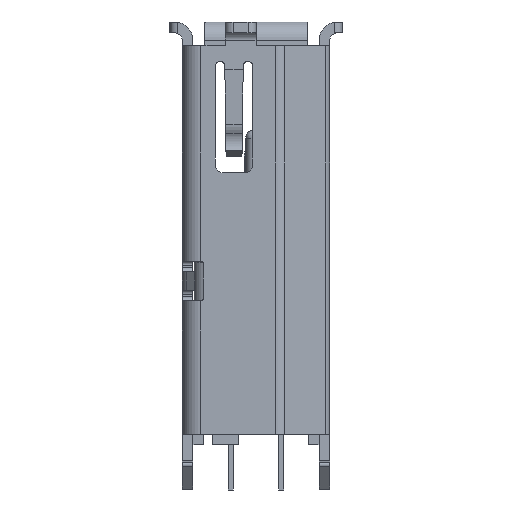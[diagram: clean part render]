
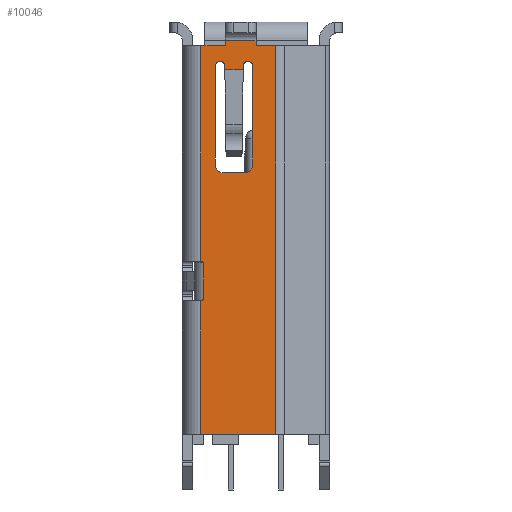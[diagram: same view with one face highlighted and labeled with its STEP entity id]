
A CAD part, left-side view. The second image highlights one B-rep face of the part: STEP entity #10046.
In plain terms, the highlighted planar face has unit normal (-1, 0, 0).
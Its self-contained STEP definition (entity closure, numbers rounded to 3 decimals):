
#229=DIRECTION('',(0.,-1.,0.));
#230=VECTOR('',#229,2.82);
#231=CARTESIAN_POINT('',(-8.45,2.08,-15.57));
#232=LINE('',#231,#230);
#1137=DIRECTION('',(0.,1.,0.));
#1138=VECTOR('',#1137,0.92);
#1139=CARTESIAN_POINT('',(-8.45,1.16,-0.9));
#1140=LINE('',#1139,#1138);
#1377=CARTESIAN_POINT('',(-8.45,2.08,-9.13));
#1378=DIRECTION('',(1.,0.,0.));
#1379=DIRECTION('',(0.,0.,1.));
#1380=AXIS2_PLACEMENT_3D('',#1377,#1378,#1379);
#1467=CARTESIAN_POINT('',(-8.45,2.08,-10.43));
#1468=DIRECTION('',(1.,0.,0.));
#1469=DIRECTION('',(0.,-1.,0.));
#1470=AXIS2_PLACEMENT_3D('',#1467,#1468,#1469);
#1477=DIRECTION('',(0.,0.,1.));
#1478=VECTOR('',#1477,1.3);
#1479=CARTESIAN_POINT('',(-8.45,1.98,-10.43));
#1480=LINE('',#1479,#1478);
#1481=DIRECTION('',(0.,0.,-1.));
#1482=VECTOR('',#1481,8.13);
#1483=CARTESIAN_POINT('',(-8.45,2.08,-0.9));
#1484=LINE('',#1483,#1482);
#1485=DIRECTION('',(0.,0.,-1.));
#1486=VECTOR('',#1485,0.2);
#1487=CARTESIAN_POINT('',(-8.45,1.16,-0.7));
#1488=LINE('',#1487,#1486);
#1489=DIRECTION('',(0.,0.,-1.));
#1490=VECTOR('',#1489,0.2);
#1491=CARTESIAN_POINT('',(-8.45,0.,-0.7));
#1492=LINE('',#1491,#1490);
#1493=DIRECTION('',(0.,1.,0.));
#1494=VECTOR('',#1493,0.74);
#1495=CARTESIAN_POINT('',(-8.45,-0.74,-0.9));
#1496=LINE('',#1495,#1494);
#1497=DIRECTION('',(0.,0.,-1.));
#1498=VECTOR('',#1497,5.04);
#1499=CARTESIAN_POINT('',(-8.45,2.08,-10.53));
#1500=LINE('',#1499,#1498);
#1501=DIRECTION('',(0.,-1.,0.));
#1502=VECTOR('',#1501,0.052);
#1503=CARTESIAN_POINT('',(-8.45,0.332,-1.5));
#1504=LINE('',#1503,#1502);
#1505=DIRECTION('',(0.,-0.014,1.));
#1506=VECTOR('',#1505,0.152);
#1507=CARTESIAN_POINT('',(-8.45,0.484,-1.8));
#1508=LINE('',#1507,#1506);
#1509=DIRECTION('',(0.,1.,0.));
#1510=VECTOR('',#1509,0.692);
#1511=CARTESIAN_POINT('',(-8.45,0.484,-1.8));
#1512=LINE('',#1511,#1510);
#1513=DIRECTION('',(0.,-0.014,-1.));
#1514=VECTOR('',#1513,0.152);
#1515=CARTESIAN_POINT('',(-8.45,1.178,-1.648));
#1516=LINE('',#1515,#1514);
#1517=DIRECTION('',(0.,-1.,0.));
#1518=VECTOR('',#1517,0.052);
#1519=CARTESIAN_POINT('',(-8.45,1.38,-1.5));
#1520=LINE('',#1519,#1518);
#1521=CARTESIAN_POINT('',(-8.45,1.23,-5.4));
#1522=DIRECTION('',(1.,0.,0.));
#1523=DIRECTION('',(0.,0.,-1.));
#1524=AXIS2_PLACEMENT_3D('',#1521,#1522,#1523);
#1526=DIRECTION('',(0.,1.,0.));
#1527=VECTOR('',#1526,0.8);
#1528=CARTESIAN_POINT('',(-8.45,0.43,-5.7));
#1529=LINE('',#1528,#1527);
#1530=CARTESIAN_POINT('',(-8.45,0.43,-5.4));
#1531=DIRECTION('',(1.,0.,0.));
#1532=DIRECTION('',(0.,-1.,0.));
#1533=AXIS2_PLACEMENT_3D('',#1530,#1531,#1532);
#3983=DIRECTION('',(0.,0.,1.));
#3984=VECTOR('',#3983,3.75);
#3985=CARTESIAN_POINT('',(-8.45,1.53,-5.4));
#3986=LINE('',#3985,#3984);
#4027=DIRECTION('',(0.,0.,-1.));
#4028=VECTOR('',#4027,3.75);
#4029=CARTESIAN_POINT('',(-8.45,0.13,-1.65));
#4030=LINE('',#4029,#4028);
#4209=CARTESIAN_POINT('',(-8.45,1.328,-1.65));
#4210=DIRECTION('',(1.,0.,0.));
#4211=DIRECTION('',(0.,0.,1.));
#4212=AXIS2_PLACEMENT_3D('',#4209,#4210,#4211);
#4336=CARTESIAN_POINT('',(-8.45,0.332,-1.65));
#4337=DIRECTION('',(1.,0.,0.));
#4338=DIRECTION('',(0.,1.,0.014));
#4339=AXIS2_PLACEMENT_3D('',#4336,#4337,#4338);
#4346=CARTESIAN_POINT('',(-8.45,0.28,-1.65));
#4347=DIRECTION('',(1.,0.,0.));
#4348=DIRECTION('',(0.,0.,1.));
#4349=AXIS2_PLACEMENT_3D('',#4346,#4347,#4348);
#4356=CARTESIAN_POINT('',(-8.45,1.38,-1.65));
#4357=DIRECTION('',(1.,0.,0.));
#4358=DIRECTION('',(0.,1.,0.));
#4359=AXIS2_PLACEMENT_3D('',#4356,#4357,#4358);
#6172=DIRECTION('',(0.,1.,0.));
#6173=VECTOR('',#6172,1.16);
#6174=CARTESIAN_POINT('',(-8.45,0.,-0.7));
#6175=LINE('',#6174,#6173);
#6186=DIRECTION('',(0.,0.,-1.));
#6187=VECTOR('',#6186,14.67);
#6188=CARTESIAN_POINT('',(-8.45,-0.74,-0.9));
#6189=LINE('',#6188,#6187);
#6871=CARTESIAN_POINT('',(-8.45,2.08,-15.57));
#6873=VERTEX_POINT('',#6871);
#6874=CARTESIAN_POINT('',(-8.45,-0.74,-15.57));
#6875=VERTEX_POINT('',#6874);
#6907=CARTESIAN_POINT('',(-8.45,2.08,-0.9));
#6909=VERTEX_POINT('',#6907);
#6938=CARTESIAN_POINT('',(-8.45,-0.74,-0.9));
#6939=CARTESIAN_POINT('',(-8.45,0.,-0.9));
#6940=VERTEX_POINT('',#6938);
#6941=VERTEX_POINT('',#6939);
#6942=CARTESIAN_POINT('',(-8.45,1.16,-0.7));
#6943=CARTESIAN_POINT('',(-8.45,1.16,-0.9));
#6944=VERTEX_POINT('',#6942);
#6945=VERTEX_POINT('',#6943);
#6946=CARTESIAN_POINT('',(-8.45,0.,-0.7));
#6947=VERTEX_POINT('',#6946);
#7090=CARTESIAN_POINT('',(-8.45,0.13,-5.4));
#7091=CARTESIAN_POINT('',(-8.45,0.43,-5.7));
#7092=VERTEX_POINT('',#7090);
#7093=VERTEX_POINT('',#7091);
#7094=CARTESIAN_POINT('',(-8.45,1.23,-5.7));
#7095=VERTEX_POINT('',#7094);
#7096=CARTESIAN_POINT('',(-8.45,1.53,-5.4));
#7097=VERTEX_POINT('',#7096);
#7290=CARTESIAN_POINT('',(-8.45,1.176,-1.8));
#7291=VERTEX_POINT('',#7290);
#7292=CARTESIAN_POINT('',(-8.45,0.484,-1.8));
#7293=VERTEX_POINT('',#7292);
#7930=CARTESIAN_POINT('',(-8.45,2.08,-9.03));
#7931=CARTESIAN_POINT('',(-8.45,1.98,-9.13));
#7932=VERTEX_POINT('',#7930);
#7933=VERTEX_POINT('',#7931);
#7934=CARTESIAN_POINT('',(-8.45,1.98,-10.43));
#7935=CARTESIAN_POINT('',(-8.45,2.08,-10.53));
#7936=VERTEX_POINT('',#7934);
#7937=VERTEX_POINT('',#7935);
#8042=CARTESIAN_POINT('',(-8.45,0.28,-1.5));
#8043=CARTESIAN_POINT('',(-8.45,0.13,-1.65));
#8044=VERTEX_POINT('',#8042);
#8045=VERTEX_POINT('',#8043);
#8050=CARTESIAN_POINT('',(-8.45,1.328,-1.5));
#8051=CARTESIAN_POINT('',(-8.45,1.178,-1.648));
#8052=VERTEX_POINT('',#8050);
#8053=VERTEX_POINT('',#8051);
#8058=CARTESIAN_POINT('',(-8.45,0.482,-1.648));
#8059=CARTESIAN_POINT('',(-8.45,0.332,-1.5));
#8060=VERTEX_POINT('',#8058);
#8061=VERTEX_POINT('',#8059);
#8066=CARTESIAN_POINT('',(-8.45,1.53,-1.65));
#8067=CARTESIAN_POINT('',(-8.45,1.38,-1.5));
#8068=VERTEX_POINT('',#8066);
#8069=VERTEX_POINT('',#8067);
#9991=CARTESIAN_POINT('',(-8.45,2.08,0.));
#9992=DIRECTION('',(-1.,0.,0.));
#9993=DIRECTION('',(0.,-1.,0.));
#9994=AXIS2_PLACEMENT_3D('',#9991,#9992,#9993);
#9995=PLANE('',#9994);
#9996=ORIENTED_EDGE('',*,*,#9835,.T.);
#9997=ORIENTED_EDGE('',*,*,#9868,.F.);
#9999=ORIENTED_EDGE('',*,*,#9998,.F.);
#10000=ORIENTED_EDGE('',*,*,#9596,.F.);
#10002=ORIENTED_EDGE('',*,*,#10001,.F.);
#10004=ORIENTED_EDGE('',*,*,#10003,.F.);
#10006=ORIENTED_EDGE('',*,*,#10005,.T.);
#10007=ORIENTED_EDGE('',*,*,#9541,.F.);
#10009=ORIENTED_EDGE('',*,*,#10008,.T.);
#10010=ORIENTED_EDGE('',*,*,#8827,.F.);
#10012=ORIENTED_EDGE('',*,*,#10011,.F.);
#10013=ORIENTED_EDGE('',*,*,#9983,.F.);
#10014=EDGE_LOOP('',(#9996,#9997,#9999,#10000,#10002,#10004,#10006,#10007,
#10009,#10010,#10012,#10013));
#10015=FACE_OUTER_BOUND('',#10014,.F.);
#10017=ORIENTED_EDGE('',*,*,#10016,.F.);
#10019=ORIENTED_EDGE('',*,*,#10018,.F.);
#10021=ORIENTED_EDGE('',*,*,#10020,.F.);
#10023=ORIENTED_EDGE('',*,*,#10022,.T.);
#10025=ORIENTED_EDGE('',*,*,#10024,.F.);
#10027=ORIENTED_EDGE('',*,*,#10026,.F.);
#10029=ORIENTED_EDGE('',*,*,#10028,.F.);
#10031=ORIENTED_EDGE('',*,*,#10030,.F.);
#10033=ORIENTED_EDGE('',*,*,#10032,.F.);
#10035=ORIENTED_EDGE('',*,*,#10034,.F.);
#10037=ORIENTED_EDGE('',*,*,#10036,.F.);
#10039=ORIENTED_EDGE('',*,*,#10038,.F.);
#10041=ORIENTED_EDGE('',*,*,#10040,.F.);
#10043=ORIENTED_EDGE('',*,*,#10042,.F.);
#10044=EDGE_LOOP('',(#10017,#10019,#10021,#10023,#10025,#10027,#10029,#10031,
#10033,#10035,#10037,#10039,#10041,#10043));
#10045=FACE_BOUND('',#10044,.F.);
#1381=CIRCLE('',#1380,0.1);
#1471=CIRCLE('',#1470,0.1);
#1525=CIRCLE('',#1524,0.3);
#1534=CIRCLE('',#1533,0.3);
#4213=CIRCLE('',#4212,0.15);
#4340=CIRCLE('',#4339,0.15);
#4350=CIRCLE('',#4349,0.15);
#4360=CIRCLE('',#4359,0.15);
#8827=EDGE_CURVE('',#6873,#6875,#232,.T.);
#9541=EDGE_CURVE('',#6940,#6941,#1496,.T.);
#9596=EDGE_CURVE('',#6945,#6909,#1140,.T.);
#9835=EDGE_CURVE('',#7936,#7933,#1480,.T.);
#9868=EDGE_CURVE('',#7932,#7933,#1381,.T.);
#9983=EDGE_CURVE('',#7936,#7937,#1471,.T.);
#9998=EDGE_CURVE('',#6909,#7932,#1484,.T.);
#10001=EDGE_CURVE('',#6944,#6945,#1488,.T.);
#10003=EDGE_CURVE('',#6947,#6944,#6175,.T.);
#10005=EDGE_CURVE('',#6947,#6941,#1492,.T.);
#10008=EDGE_CURVE('',#6940,#6875,#6189,.T.);
#10011=EDGE_CURVE('',#7937,#6873,#1500,.T.);
#10016=EDGE_CURVE('',#8061,#8044,#1504,.T.);
#10018=EDGE_CURVE('',#8060,#8061,#4340,.T.);
#10020=EDGE_CURVE('',#7293,#8060,#1508,.T.);
#10022=EDGE_CURVE('',#7293,#7291,#1512,.T.);
#10024=EDGE_CURVE('',#8053,#7291,#1516,.T.);
#10026=EDGE_CURVE('',#8052,#8053,#4213,.T.);
#10028=EDGE_CURVE('',#8069,#8052,#1520,.T.);
#10030=EDGE_CURVE('',#8068,#8069,#4360,.T.);
#10032=EDGE_CURVE('',#7097,#8068,#3986,.T.);
#10034=EDGE_CURVE('',#7095,#7097,#1525,.T.);
#10036=EDGE_CURVE('',#7093,#7095,#1529,.T.);
#10038=EDGE_CURVE('',#7092,#7093,#1534,.T.);
#10040=EDGE_CURVE('',#8045,#7092,#4030,.T.);
#10042=EDGE_CURVE('',#8044,#8045,#4350,.T.);
#10046=ADVANCED_FACE('',(#10015,#10045),#9995,.T.);
